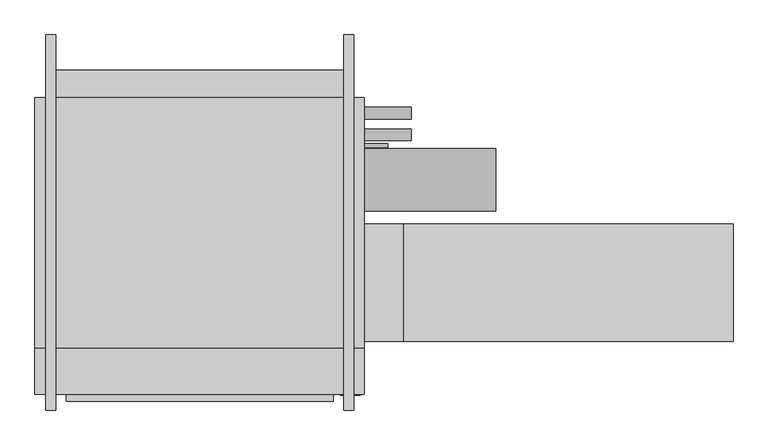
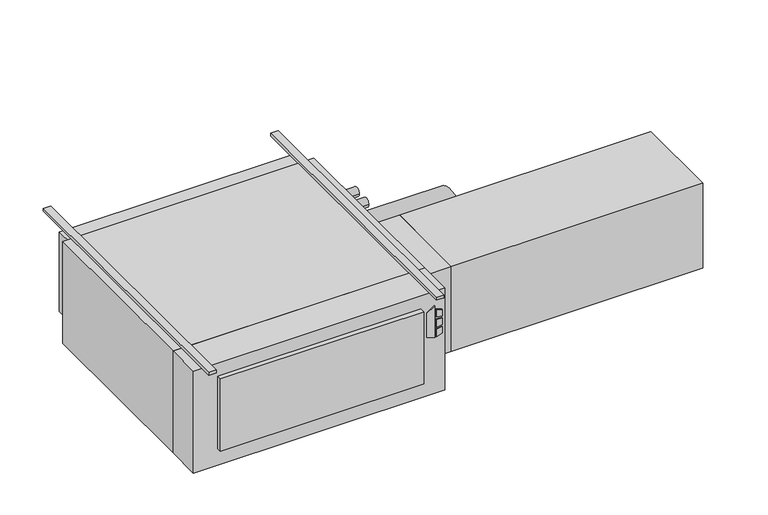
"""IFC4 building model written with IfcOpenShell, lengths in millimetres: proxy geometry."""

import ifcopenshell
import ifcopenshell.guid

model = None  # the IFC model being written
_history = None  # IfcOwnerHistory: only IFC2X3 demands one
_inside = {}  # id of a spatial element -> (the spatial element, [elements in it])
_under = {}  # id of a project, library or spatial element -> (it, [spatial elements below it])
_declared = {}  # id of a project -> (the project, [libraries it declares])
_typed = {}  # id of a type object -> (the type object, [elements of that type])
_made_of = {}  # id of a material, layer set ... -> (it, [elements and type objects made of it])


def new_model(schema):
    """Start an empty IFC model of exactly this schema.

    Asked for "IFC4X3", IfcOpenShell would pick the latest addendum, in which some entities
    have other attributes; the version numbers below select the first issue.
    IFC2X3 requires an IfcOwnerHistory on every rooted entity: one is made here for all.
    """
    global model, _history
    if schema == "IFC4X3":
        model = ifcopenshell.file(schema_version=(4, 3, 0, 0))
    else:
        model = ifcopenshell.file(schema=schema)
    _inside.clear()
    _under.clear()
    _declared.clear()
    _typed.clear()
    _made_of.clear()
    _history = None
    if model.schema == "IFC2X3":
        org = make("IfcOrganization", Name="unknown")
        user = make(
            "IfcPersonAndOrganization",
            ThePerson=make("IfcPerson", FamilyName="unknown"),
            TheOrganization=org,
        )
        app = make(
            "IfcApplication",
            ApplicationDeveloper=org,
            Version="unknown",
            ApplicationFullName="unknown",
            ApplicationIdentifier="unknown",
        )
        _history = make(
            "IfcOwnerHistory",
            OwningUser=user,
            OwningApplication=app,
            ChangeAction="ADDED",
            CreationDate=0,
        )
    return model


def make(cls, **values):
    """One entity of the class cls with the attributes given. An attribute that is None is left unset."""
    return model.create_entity(
        cls, **{name: value for name, value in values.items() if value is not None}
    )


def rooted(cls, **values):
    """An entity with a GlobalId (a new one), such as an element, a storey or a relation."""
    return make(cls, GlobalId=ifcopenshell.guid.new(), OwnerHistory=_history, **values)


def si_unit(unit_type, name, prefix=None):
    """IfcSIUnit, for example si_unit("LENGTHUNIT", "METRE", prefix="MILLI")."""
    return make("IfcSIUnit", UnitType=unit_type, Prefix=prefix, Name=name)


def assignment(units):
    """IfcUnitAssignment: the units of a project."""
    return None if units is None else make("IfcUnitAssignment", Units=units)


def point(xyz):
    """IfcCartesianPoint."""
    return None if xyz is None else make("IfcCartesianPoint", Coordinates=xyz)


def direction(xyz):
    """IfcDirection."""
    return None if xyz is None else make("IfcDirection", DirectionRatios=xyz)


def frame(location, z_axis=None, x_axis=None):
    """IfcAxis2Placement3D, a coordinate frame: its origin and axes. An axis left out is left unset."""
    return make(
        "IfcAxis2Placement3D",
        Location=point(location),
        Axis=direction(z_axis),
        RefDirection=direction(x_axis),
    )


def frame_2d(location, x_axis=None):
    """IfcAxis2Placement2D, a coordinate frame in the plane: its origin and x axis."""
    return make(
        "IfcAxis2Placement2D", Location=point(location), RefDirection=direction(x_axis)
    )


def origin():
    """The frame at (0, 0, 0) with its axes left unset."""
    return frame((0.0, 0.0, 0.0))


def origin_with_axes():
    """The frame at (0, 0, 0) with the z axis (0, 0, 1) and the x axis (1, 0, 0) written out."""
    return frame((0.0, 0.0, 0.0), z_axis=(0.0, 0.0, 1.0), x_axis=(1.0, 0.0, 0.0))


def place(relative_to, where):
    """IfcLocalPlacement: puts the frame where relative to a parent placement (None: the world)."""
    return make(
        "IfcLocalPlacement", PlacementRelTo=relative_to, RelativePlacement=where
    )


def context(
    kind, dimensions, precision=None, world=None, true_north=None, identifier=None
):
    """IfcGeometricRepresentationContext, for example the 3D "Model" context."""
    return make(
        "IfcGeometricRepresentationContext",
        ContextIdentifier=identifier,
        ContextType=kind,
        CoordinateSpaceDimension=dimensions,
        Precision=precision,
        WorldCoordinateSystem=world,
        TrueNorth=true_north,
    )


def project(units=None, contexts=None):
    """IfcProject with its units and contexts."""
    return rooted(
        "IfcProject",
        Name="project",
        RepresentationContexts=contexts,
        UnitsInContext=assignment(units),
    )


def spatial(cls, under=None, at=None, **own):
    """A site, building, storey or space (cls), placed at a placement, below another one or the project."""
    s = rooted(cls, ObjectPlacement=at, **own)
    if under is not None:
        _under.setdefault(under.id(), (under, []))[1].append(s)
    return s


def polyline(points):
    """IfcPolyline through the points."""
    return make("IfcPolyline", Points=[point(p) for p in points])


def circle_curve(where, radius):
    """IfcCircle in the frame where."""
    return make("IfcCircle", Position=where, Radius=radius)


def trimmed(basis, trim1, trim2, sense, master):
    """IfcTrimmedCurve: the piece of a basis curve between two trims."""
    return make(
        "IfcTrimmedCurve",
        BasisCurve=basis,
        Trim1=trim1,
        Trim2=trim2,
        SenseAgreement=sense,
        MasterRepresentation=master,
    )


def segment(curve, same_sense, transition):
    """IfcCompositeCurveSegment."""
    return make(
        "IfcCompositeCurveSegment",
        Transition=transition,
        SameSense=same_sense,
        ParentCurve=curve,
    )


def composite_curve(segments, self_intersect=None):
    """IfcCompositeCurve: segments joined end to end."""
    return make("IfcCompositeCurve", Segments=segments, SelfIntersect=self_intersect)


def outline(outer, holes=None, kind="AREA"):
    """IfcArbitraryClosedProfileDef: a profile drawn as a closed curve; with holes, ...WithVoids."""
    if holes is None:
        return make("IfcArbitraryClosedProfileDef", ProfileType=kind, OuterCurve=outer)
    return make(
        "IfcArbitraryProfileDefWithVoids",
        ProfileType=kind,
        OuterCurve=outer,
        InnerCurves=holes,
    )


def extrude(swept, where, along, depth):
    """IfcExtrudedAreaSolid: the profile swept, set in the frame where, extruded along a direction by depth."""
    return make(
        "IfcExtrudedAreaSolid",
        SweptArea=swept,
        Position=where,
        ExtrudedDirection=direction(along),
        Depth=depth,
    )


def shape(context_of_items, identifier, shape_type, items):
    """IfcShapeRepresentation: the items that make up one representation, for example the "Body"."""
    return make(
        "IfcShapeRepresentation",
        ContextOfItems=context_of_items,
        RepresentationIdentifier=identifier,
        RepresentationType=shape_type,
        Items=items,
    )


def source(mapping_origin, context_of_items, identifier, shape_type, items):
    """IfcRepresentationMap: a shape defined once, which mapped items show again and again."""
    return make(
        "IfcRepresentationMap",
        MappingOrigin=mapping_origin,
        MappedRepresentation=shape(context_of_items, identifier, shape_type, items),
    )


def transform(
    local_origin,
    x_axis=None,
    y_axis=None,
    z_axis=None,
    scale=None,
    scale2=None,
    scale3=None,
    uniform=True,
):
    """IfcCartesianTransformationOperator3D, or its non-uniform kind. x_axis, y_axis, z_axis: its Axis1, 2, 3."""
    if uniform:
        return make(
            "IfcCartesianTransformationOperator3D",
            Axis1=direction(x_axis),
            Axis2=direction(y_axis),
            LocalOrigin=point(local_origin),
            Scale=scale,
            Axis3=direction(z_axis),
        )
    return make(
        "IfcCartesianTransformationOperator3DnonUniform",
        Axis1=direction(x_axis),
        Axis2=direction(y_axis),
        LocalOrigin=point(local_origin),
        Scale=scale,
        Axis3=direction(z_axis),
        Scale2=scale2,
        Scale3=scale3,
    )


def mapped(mapping_source, mapping_target):
    """IfcMappedItem: shows the shape of a source again, moved by a transform."""
    return make(
        "IfcMappedItem", MappingSource=mapping_source, MappingTarget=mapping_target
    )


def made_of(thing, what):
    """Note that an element or type object is made of a material, layer set ...; save() writes the relation."""
    if what is not None:
        _made_of.setdefault(what.id(), (what, []))[1].append(thing)
    return thing


def element(
    cls,
    number,
    at=None,
    inside=None,
    cuts=None,
    type_object=None,
    material=None,
    context=None,
    identifier="Body",
    shape_type=None,
    held_by="IfcProductDefinitionShape",
    body=None,
    shapes=None,
    **own,
):
    """One element of the class cls, such as IfcWall. Its Tag is "e" and its number.

    at: its placement. inside: the storey or other place that contains it. cuts: it is an
    opening in that element (IfcRelVoidsElement). A single representation is given by context,
    identifier, shape_type and body (its items); several are given by shapes. held_by: the class
    of the entity that holds the representations. save() writes the other relations.
    """
    e = rooted(cls, Tag="e%d" % number, ObjectPlacement=at, **own)
    if body is not None:
        shapes = [shape(context, identifier, shape_type, body)]
    if shapes is not None:
        e.Representation = make(held_by, Representations=shapes)
    if inside is not None:
        _inside.setdefault(inside.id(), (inside, []))[1].append(e)
    if cuts is not None:
        rooted(
            "IfcRelVoidsElement", RelatingBuildingElement=cuts, RelatedOpeningElement=e
        )
    if type_object is not None:
        _typed.setdefault(type_object.id(), (type_object, []))[1].append(e)
    return made_of(e, material)


def aggregate(whole, parts):
    """IfcRelAggregates: a whole, such as a stair, and the parts it consists of."""
    return rooted("IfcRelAggregates", RelatingObject=whole, RelatedObjects=parts)


def save(model, path):
    """Write the relations noted so far, then the file.

    IfcRelAggregates (storeys below a building ...), IfcRelContainedInSpatialStructure (elements
    in a storey), IfcRelDefinesByType, IfcRelAssociatesMaterial and IfcRelDeclares: one each for
    every whole, place, type object, material and project.
    """
    for whole, parts in _under.values():
        aggregate(whole, parts)
    for where, things in _inside.values():
        rooted(
            "IfcRelContainedInSpatialStructure",
            RelatedElements=things,
            RelatingStructure=where,
        )
    for kind, things in _typed.values():
        rooted("IfcRelDefinesByType", RelatedObjects=things, RelatingType=kind)
    for what, things in _made_of.values():
        rooted("IfcRelAssociatesMaterial", RelatedObjects=things, RelatingMaterial=what)
    for by, libraries in _declared.values():
        rooted("IfcRelDeclares", RelatingContext=by, RelatedDefinitions=libraries)
    model.write(path)


def mechanical_equipment_42922af7(model_context):
    return source(origin(), model_context, "Body", "SweptSolid", [
        extrude(outline(polyline([(-193.2519297, 608.0868862), (-203.2, 640.2602728), (-61.0290756, 640.2602728), (-84.0510817, 608.0868862), (-193.2519297, 608.0868862)])), frame((0.0, -797.052, 0.0), z_axis=(0.0, 1.0, 0.0), x_axis=(0.0, 0.0, 1.0)), (0.0, 0.0, 1.0), 3.175),
        extrude(outline(polyline([(-114.2526443, 647.0186058), (-117.4550368, 673.1), (-88.2261958, 673.1), (-80.1617807, 647.0186058), (-114.2526443, 647.0186058)])), frame((0.0, -797.052, 0.0), z_axis=(0.0, 1.0, 0.0), x_axis=(0.0, 0.0, 1.0)), (0.0, 0.0, 1.0), 3.175),
        extrude(outline(polyline([(-166.1161712, 673.1), (-169.7816721, 647.0186058), (-203.2, 647.0186058), (-194.5657628, 673.1), (-166.1161712, 673.1)])), frame((0.0, -797.052, 0.0), z_axis=(0.0, 1.0, 0.0), x_axis=(0.0, 0.0, 1.0)), (0.0, 0.0, 1.0), 3.175),
        extrude(outline(polyline([(-126.8010097, 673.1), (-124.5191834, 647.0186058), (-160.4567319, 647.0186058), (-157.7154669, 673.1), (-126.8010097, 673.1)])), frame((0.0, -797.052, 0.0), z_axis=(0.0, 1.0, 0.0), x_axis=(0.0, 0.0, 1.0)), (0.0, 0.0, 1.0), 3.175),
        extrude(outline(polyline([(685.8, -793.877), (-381.0, -793.877), (-381.0, -644.525), (685.8, -644.525), (685.8, -793.877)])), frame((0.0, 0.0, -457.2), z_axis=(0.0, 0.0, 1.0), x_axis=(1.0, 0.0, 0.0)), (0.0, 0.0, 1.0), 457.2),
        extrude(outline(polyline([(584.2, -816.229), (-279.4, -816.229), (-279.4, -793.877), (584.2, -793.877), (584.2, -816.229)])), frame((0.0, 0.0, -381.0), z_axis=(0.0, 0.0, 1.0), x_axis=(1.0, 0.0, 0.0)), (0.0, 0.0, 1.0), 323.85),
        extrude(outline(polyline([(1879.6, -241.3), (1879.6, -622.3), (812.8, -622.3), (812.8, -241.3), (1879.6, -241.3)])), frame((0.0, 0.0, -431.8), z_axis=(0.0, 0.0, 1.0), x_axis=(1.0, 0.0, 0.0)), (0.0, 0.0, 1.0), 381.0),
        extrude(outline(polyline([(812.8, -241.3), (812.8, -622.3), (685.8, -622.3), (685.8, -241.3), (812.8, -241.3)])), frame((0.0, 0.0, -431.8), z_axis=(0.0, 0.0, 1.0), x_axis=(1.0, 0.0, 0.0)), (0.0, 0.0, 1.0), 381.0),
        extrude(outline(composite_curve([segment(trimmed(circle_curve(frame_2d((117.475, -171.45)), 19.05), [point((136.525, -171.45))], [point((98.425, -171.45))], False, "CARTESIAN"), True, "CONTINUOUS"), segment(trimmed(circle_curve(frame_2d((117.475, -171.45)), 19.05), [point((98.425, -171.45))], [point((136.525, -171.45))], False, "CARTESIAN"), True, "CONTINUOUS")], self_intersect=False)), frame((685.8, 0.0, 0.0), z_axis=(1.0, 0.0, 0.0), x_axis=(0.0, 1.0, 0.0)), (0.0, 0.0, 1.0), 152.4),
        extrude(outline(composite_curve([segment(trimmed(circle_curve(frame_2d((47.625, -177.8)), 19.05), [point((66.675, -177.8))], [point((28.575, -177.8))], False, "CARTESIAN"), True, "CONTINUOUS"), segment(trimmed(circle_curve(frame_2d((47.625, -177.8)), 19.05), [point((28.575, -177.8))], [point((66.675, -177.8))], False, "CARTESIAN"), True, "CONTINUOUS")], self_intersect=False)), frame((685.8, 0.0, 0.0), z_axis=(1.0, 0.0, 0.0), x_axis=(0.0, 1.0, 0.0)), (0.0, 0.0, 1.0), 152.4),
        extrude(outline(composite_curve([segment(trimmed(circle_curve(frame_2d((-98.4896516, -228.6360165)), 101.6), [point((3.1103484, -228.6360165))], [point((-200.0896516, -228.6360165))], False, "CARTESIAN"), True, "CONTINUOUS"), segment(trimmed(circle_curve(frame_2d((-98.4896516, -228.6360165)), 101.6), [point((-200.0896516, -228.6360165))], [point((3.1103484, -228.6360165))], False, "CARTESIAN"), True, "CONTINUOUS")], self_intersect=False)), frame((685.8, 0.0, 0.0), z_axis=(1.0, 0.0, 0.0), x_axis=(0.0, 1.0, 0.0)), (0.0, 0.0, 1.0), 425.45),
        extrude(outline(composite_curve([segment(trimmed(circle_curve(frame_2d((12.7, -409.575)), 6.35), [point((19.05, -409.575))], [point((6.35, -409.575))], False, "CARTESIAN"), True, "CONTINUOUS"), segment(trimmed(circle_curve(frame_2d((12.7, -409.575)), 6.35), [point((6.35, -409.575))], [point((19.05, -409.575))], False, "CARTESIAN"), True, "CONTINUOUS")], self_intersect=False)), frame((685.8, 0.0, 0.0), z_axis=(1.0, 0.0, 0.0), x_axis=(0.0, 1.0, 0.0)), (0.0, 0.0, 1.0), 76.2),
        extrude(outline(polyline([(685.8, 168.275), (685.8, -644.525), (-381.0, -644.525), (-381.0, 168.275), (685.8, 168.275)])), frame((0.0, 0.0, -457.2), z_axis=(0.0, 0.0, 1.0), x_axis=(1.0, 0.0, 0.0)), (0.0, 0.0, 1.0), 457.2),
        extrude(outline(polyline([(-342.9, 257.175), (647.7, 257.175), (647.7, 168.275), (-342.9, 168.275), (-342.9, 257.175)])), frame((0.0, 0.0, -381.0), z_axis=(0.0, 0.0, 1.0), x_axis=(1.0, 0.0, 0.0)), (0.0, 0.0, 1.0), 355.6),
        extrude(outline(polyline([(-314.325, 371.475), (-314.325, -844.677), (-346.075, -844.677), (-346.075, 371.475), (-314.325, 371.475)])), origin_with_axes(), (0.0, 0.0, 1.0), 12.7),
        extrude(outline(polyline([(650.875, 371.475), (650.875, -844.677), (619.125, -844.677), (619.125, 371.475), (650.875, 371.475)])), origin_with_axes(), (0.0, 0.0, 1.0), 12.7),
    ])


if __name__ == "__main__":
    model = new_model("IFC4")
    model_context = context("Model", 3, world=origin())
    ifc_project = project(units=[si_unit("LENGTHUNIT", "METRE", prefix="MILLI")], contexts=[model_context])
    site = spatial("IfcSite", under=ifc_project)
    building = spatial("IfcBuilding", under=site)
    placement = place(None, origin())
    mechanical_equipment_shape = mechanical_equipment_42922af7(model_context)
    element("IfcBuildingElementProxy", 1, Name="High_Capacity_Horizontal_Cabinet_Fan_Coil_Unit_-_HTY_-_IEC_-_2 Pipe, Elec Heat_WO-Attenuator_RH Side_2022 : Size 14 - 277v/60Hz/1Ph - 8/0 Coil 10.0kW - 8\" AirIn", ObjectType="High_Capacity_Horizontal_Cabinet_Fan_Coil_Unit_-_HTY_-_IEC_-_2 Pipe, Elec Heat_WO-Attenuator_RH Side_2022 : Size 14 - 277v/60Hz/1Ph - 8/0 Coil 10.0kW - 8\" AirIn", at=placement, inside=building, context=model_context, shape_type="MappedRepresentation", body=[
        mapped(mechanical_equipment_shape, transform((0.0, 0.0, 0.0), x_axis=(1.0, 0.0, 0.0), y_axis=(0.0, 1.0, 0.0), z_axis=(0.0, 0.0, 1.0))),
    ])
    save(model, "model.ifc")
